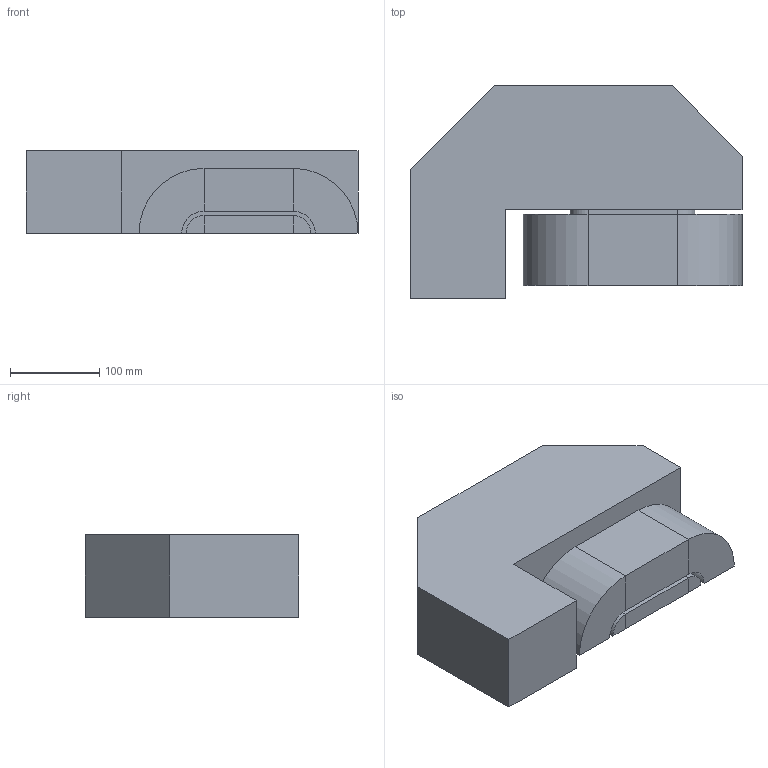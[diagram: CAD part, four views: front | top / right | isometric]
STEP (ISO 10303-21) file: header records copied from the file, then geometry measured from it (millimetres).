
FILE_DESCRIPTION(('STEP AP214'),'1');
FILE_NAME('Superbend_Sirius_MT27_SingleCoil_step.step','2021-10-21T16:21:01',(' '),(' '),'Spatial InterOp 3D',' ',' ');
FILE_SCHEMA(('AUTOMOTIVE_DESIGN { 1 0 10303 214 1 1 1 1 }'));
Length unit declared in the file: millimetre
Products named in the file (1): Pole0ComponentA
Bounding box: 373 x 240 x 93 mm (x, y, z)
Volume: 6340266.6 mm3; surface area: 340960.1 mm2
Topology: 7 solids, 7 shells, 44 faces, 90 edges, 60 vertices
Faces by surface type: plane 38, cylinder 6
Entity records: 1185 total; most frequent: DIRECTION 204, CARTESIAN_POINT 201, ORIENTED_EDGE 180, EDGE_CURVE 90, LINE 78, VECTOR 78, AXIS2_PLACEMENT_3D 63, VERTEX_POINT 60
